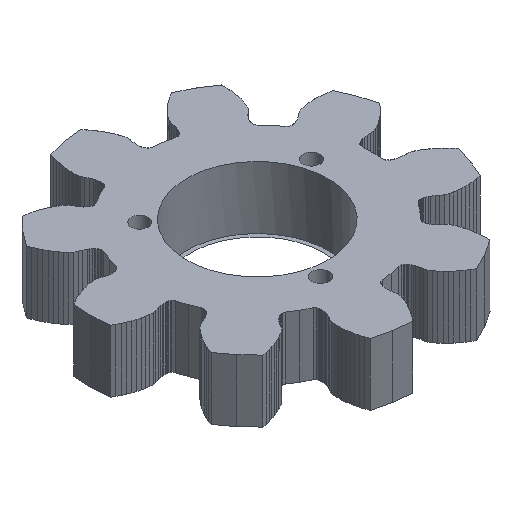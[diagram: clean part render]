
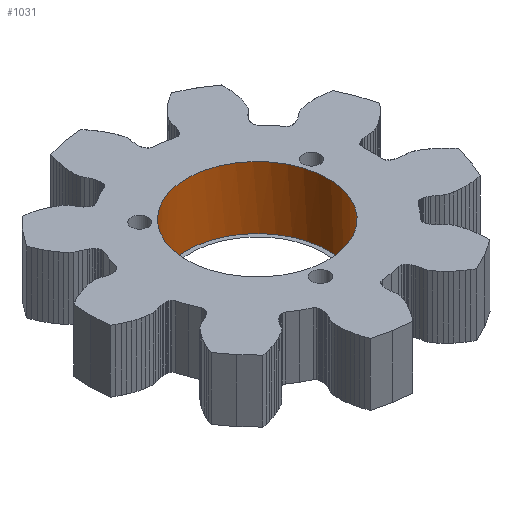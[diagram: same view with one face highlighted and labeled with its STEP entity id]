
A CAD part, isometric view. The second image highlights one B-rep face of the part: STEP entity #1031.
In plain terms, the highlighted cylindrical face has radius 17 mm (diameter 34 mm), a full revolution.
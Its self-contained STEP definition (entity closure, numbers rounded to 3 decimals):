
#1031 = ADVANCED_FACE( '', ( #2193, #2194 ), #2195, .F. );
#2193 = FACE_OUTER_BOUND( '', #3488, .T. );
#2194 = FACE_OUTER_BOUND( '', #3489, .T. );
#2195 = CYLINDRICAL_SURFACE( '', #3490, 17. );
#3488 = EDGE_LOOP( '', ( #7410 ) );
#3489 = EDGE_LOOP( '', ( #7411 ) );
#3490 = AXIS2_PLACEMENT_3D( '', #7412, #7413, #7414 );
#7410 = ORIENTED_EDGE( '', *, *, #9816, .F. );
#7411 = ORIENTED_EDGE( '', *, *, #9501, .F. );
#7412 = CARTESIAN_POINT( '', ( 42.707, 43.618, -98.34 ) );
#7413 = DIRECTION( '', ( 0., 0., -1. ) );
#7414 = DIRECTION( '', ( 1., 0., 0. ) );
#9501 = EDGE_CURVE( '', #12279, #12279, #12280, .F. );
#9816 = EDGE_CURVE( '', #12754, #12754, #12755, .T. );
#12279 = VERTEX_POINT( '', #16449 );
#12280 = CIRCLE( '', #16450, 17. );
#12754 = VERTEX_POINT( '', #17206 );
#12755 = CIRCLE( '', #17207, 17. );
#16449 = CARTESIAN_POINT( '', ( 25.707, 43.618, 0. ) );
#16450 = AXIS2_PLACEMENT_3D( '', #19812, #19813, #19814 );
#17206 = CARTESIAN_POINT( '', ( 47.809, 27.402, 15. ) );
#17207 = AXIS2_PLACEMENT_3D( '', #20106, #20107, #20108 );
#19812 = CARTESIAN_POINT( '', ( 42.707, 43.618, 0. ) );
#19813 = DIRECTION( '', ( 0., 0., -1. ) );
#19814 = DIRECTION( '', ( -1., 0., 0. ) );
#20106 = CARTESIAN_POINT( '', ( 42.707, 43.618, 15. ) );
#20107 = DIRECTION( '', ( 0., 0., -1. ) );
#20108 = DIRECTION( '', ( 0.3, -0.954, 0. ) );
